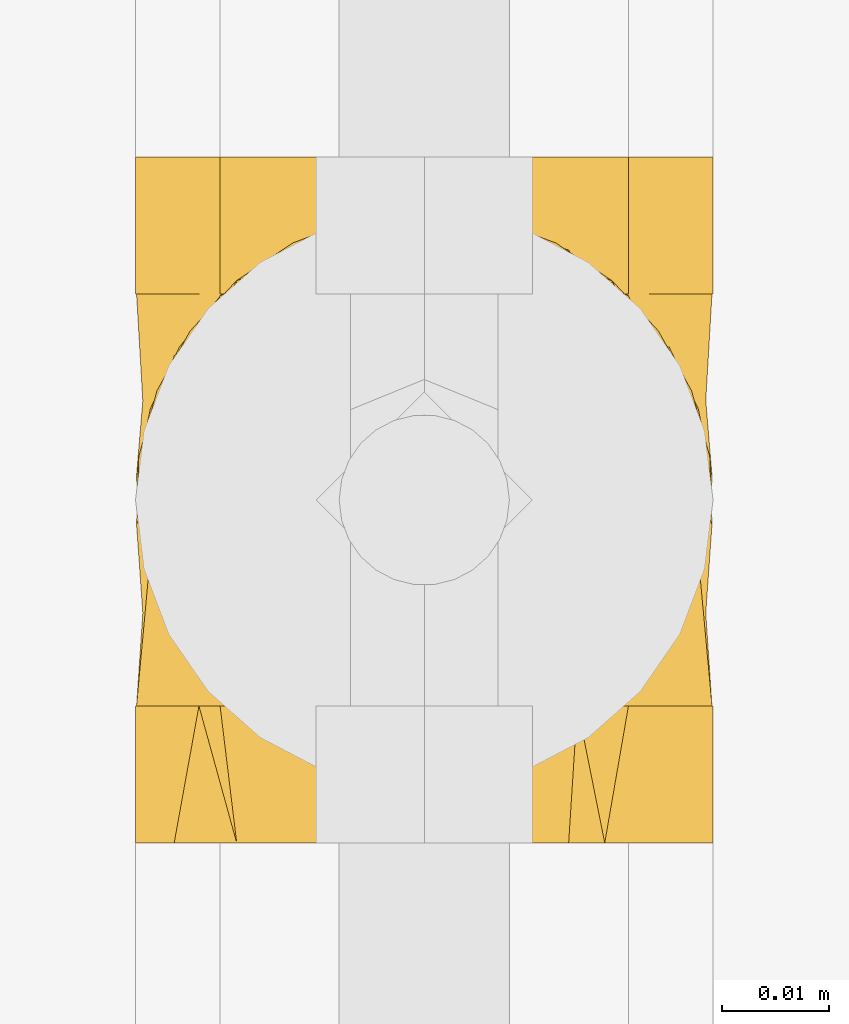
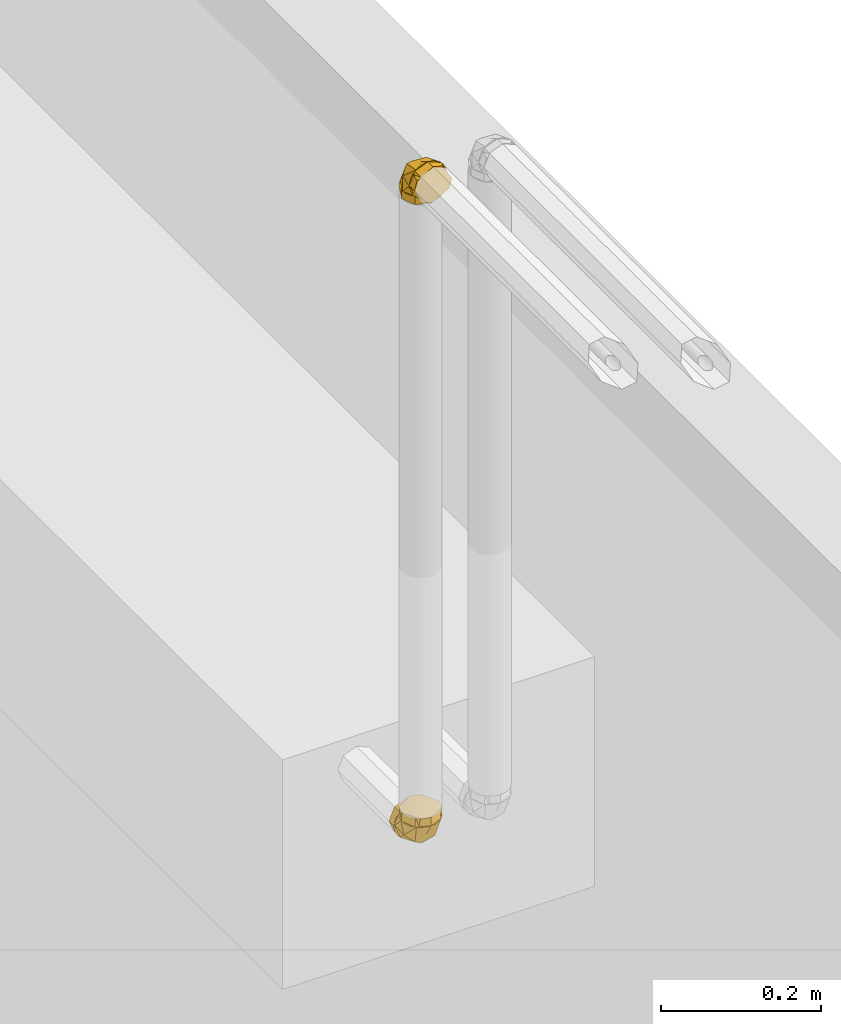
# One storey, part 369 of 652: 2 coverings.
"""IFC2X3 building model written with IfcOpenShell, lengths in millimetres."""

from ifc_helpers import new_model, entity, si_unit, converted_unit, direction, frame, origin, place, context, subcontext, project, spatial, face_set, surface_model, material, type_object, element, save


model = new_model("IFC2X3")

# Units and contexts
model_context = context("Model", 3, precision=0.01, world=frame((0.0, 0.0, 308426.39999999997)), true_north=direction((6.123233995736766e-17, 1.0)))
plan_context = context("Plan", 3, precision=0.01, world=frame((0.0, 0.0, 308426.39999999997)), true_north=direction((6.123233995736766e-17, 1.0)))
body_context = subcontext(model_context, "Body", "Model", "MODEL_VIEW")
ifc_project = project(units=[si_unit("LENGTHUNIT", "METRE", prefix="MILLI"), si_unit("AREAUNIT", "SQUARE_METRE"), si_unit("VOLUMEUNIT", "CUBIC_METRE"), converted_unit("PLANEANGLEUNIT", "DEGREE", entity("IfcPlaneAngleMeasure", 0.017453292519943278), si_unit("PLANEANGLEUNIT", "RADIAN"), dimensions=[0, 0, 0, 0, 0, 0, 0])], contexts=[model_context, plan_context])

# Site, building, storey
site_placement = place(None, origin())
site = spatial("IfcSite", under=ifc_project, at=site_placement, Name="Default", CompositionType="ELEMENT")
building_placement = place(site_placement, origin())
building = spatial("IfcBuilding", under=site, at=building_placement, CompositionType="ELEMENT")
storey_placement = place(building_placement, frame((0.0, 0.0, 1730.6999999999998)))
storey = spatial("IfcBuildingStorey", under=building, at=storey_placement, Name="EG_Produktion_FFB", CompositionType="ELEMENT", Elevation=1730.6999999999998)

# Coverings
ifc_material = material(Name="Dämmung - Armaflex-Schlauch")
covering_type = type_object("IfcCoveringType", Name="Rohrdämmung außen:Armaflex-Schlauch", PredefinedType="INSULATION")
covering_1_placement = place(storey_placement, frame((66096.95799511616, 42487.64333489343, 2731.9837499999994)))
element("IfcCovering", 1, at=covering_1_placement, inside=storey, type_object=covering_type, material=ifc_material, Name="Rohrdämmung außen:Armaflex-Schlauch", ObjectType="Rohrdämmung außen:Armaflex-Schlauch", PredefinedType="INSULATION", context=body_context, shape_type="SurfaceModel", body=[
    surface_model("IfcFaceBasedSurfaceModel", [(47.409122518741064, 47.75027223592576, -12.766249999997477), (5.678961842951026, 47.75027223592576, -17.724287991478), (2.973980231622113, 47.75027223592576, -23.47627931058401), (1.6920879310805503, 47.75027223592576, -29.701958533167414), (1.904659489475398, 47.75027223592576, -36.05468574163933), (3.599859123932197, 47.75027223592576, -42.180747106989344), (6.683299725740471, 47.75027223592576, -47.739049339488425), (10.983298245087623, 47.750272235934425, -52.42011143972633), (16.26043484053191, 47.750272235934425, -55.96329630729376), (22.220883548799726, 47.750272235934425, -58.17132276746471), (28.532772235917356, 47.750272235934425, -58.9212499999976), (34.844660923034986, 47.750272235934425, -58.17132276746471), (40.8051096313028, 47.750272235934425, -55.96329630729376), (46.08224622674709, 47.750272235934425, -52.42011143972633), (50.38224474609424, 47.75027223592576, -47.739049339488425), (53.465685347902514, 47.75027223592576, -42.180747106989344), (55.16088498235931, 47.75027223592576, -36.05468574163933), (55.37345654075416, 47.75027223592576, -29.701958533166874), (54.0915642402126, 47.75027223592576, -23.47627931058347), (51.38658262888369, 47.75027223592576, -17.724287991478), (9.65642195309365, 47.75027223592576, -12.766249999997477), (51.38658262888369, 42.79223424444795, -12.766249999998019), (54.0915642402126, 37.040242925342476, -12.766249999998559), (55.37345654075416, 30.81456370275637, -12.766249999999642), (55.16088498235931, 24.461836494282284, -12.766250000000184), (53.465685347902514, 18.33577512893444, -12.766250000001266), (50.38224474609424, 12.77747289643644, -12.766250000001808), (46.08224622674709, 8.09641079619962, -12.76625000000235), (40.8051096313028, 4.553225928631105, -12.766250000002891), (34.844660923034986, 2.345199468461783, -12.766250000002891), (28.532772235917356, 1.5952722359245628, -12.766250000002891), (22.220883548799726, 2.345199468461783, -12.766250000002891), (16.26043484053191, 4.553225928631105, -12.766250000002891), (10.983298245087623, 8.09641079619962, -12.76625000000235), (6.683299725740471, 12.77747289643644, -12.766250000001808), (3.599859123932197, 18.33577512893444, -12.766250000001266), (1.904659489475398, 24.461836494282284, -12.766250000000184), (1.6920879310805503, 30.81456370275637, -12.766249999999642), (2.973980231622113, 37.040242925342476, -12.766249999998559), (5.678961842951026, 42.79223424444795, -12.766249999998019), (54.79022265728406, 37.80747077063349, -21.44669860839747), (28.53136035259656, 24.673388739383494, -52.73752120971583), (50.73000537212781, 47.751049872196, -41.06090835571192), (53.46472216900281, 26.952319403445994, -33.56543563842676), (42.78165332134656, 17.334301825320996, -41.84167465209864), (28.53136035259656, 12.139270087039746, -31.029834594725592), (50.73000537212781, 19.455102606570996, -12.766123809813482), (14.285718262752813, 17.334301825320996, -41.84167465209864), (3.597998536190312, 26.952319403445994, -33.56543563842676), (2.277148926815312, 37.80747077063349, -21.44669860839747), (6.337366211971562, 19.455102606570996, -12.766123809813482), (6.337366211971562, 47.751049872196, -41.06090835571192), (28.532772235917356, 60.516522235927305, -58.92125000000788), (23.77085000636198, 60.516522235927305, -56.94879722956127), (19.008927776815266, 60.516522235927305, -54.97634445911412), (14.247005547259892, 60.516522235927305, -53.0038916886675), (9.485083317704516, 60.516522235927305, -51.03143891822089), (7.512630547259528, 60.516522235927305, -46.26951668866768), (5.54017777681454, 60.516522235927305, -41.50759445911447), (3.567725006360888, 60.516522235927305, -36.74567222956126), (1.5952722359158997, 60.516522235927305, -31.98375000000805), (3.567725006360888, 60.516522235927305, -27.22182777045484), (5.54017777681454, 60.516522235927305, -22.45990554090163), (7.512630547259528, 60.516522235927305, -17.697983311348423), (9.485083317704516, 60.516522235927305, -12.936061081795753), (14.247005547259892, 60.516522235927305, -10.9636083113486), (19.008927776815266, 60.516522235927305, -8.991155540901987), (23.77085000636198, 60.516522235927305, -7.018702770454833), (28.532772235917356, 60.516522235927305, -5.04625000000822), (33.29469446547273, 60.516522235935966, -7.018702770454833), (38.05661669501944, 60.516522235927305, -8.991155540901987), (42.81853892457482, 60.516522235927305, -10.963608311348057), (47.5804611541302, 60.516522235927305, -12.936061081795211), (49.552913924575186, 60.516522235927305, -17.697983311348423), (51.525366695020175, 60.516522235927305, -22.45990554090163), (53.49781946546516, 60.516522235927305, -27.2218277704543), (55.47027223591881, 60.516522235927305, -31.98375000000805), (53.497819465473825, 60.516522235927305, -36.74567222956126), (51.525366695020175, 60.516522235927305, -41.50759445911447), (49.552913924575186, 60.516522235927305, -46.26951668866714), (47.5804611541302, 60.516522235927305, -51.03143891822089), (42.81853892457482, 60.516522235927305, -53.00389168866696), (38.05661669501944, 60.516522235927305, -54.97634445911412), (33.29469446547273, 60.516522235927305, -56.94879722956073), (28.532772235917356, 47.75027223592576, -58.92125000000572), (33.29469446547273, 47.75027223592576, -56.94879722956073), (38.05661669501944, 47.75027223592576, -54.97634445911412), (42.81853892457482, 47.75027223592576, -53.00389168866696), (47.5804611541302, 47.75027223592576, -51.031438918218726), (49.96980627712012, 47.75027223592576, -45.26304951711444), (52.35915140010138, 47.75027223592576, -39.494660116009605), (55.47027223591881, 47.75027223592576, -31.983750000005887), (53.497819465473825, 47.75027223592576, -27.221827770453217), (51.525366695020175, 47.75027223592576, -22.459905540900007), (49.552913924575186, 47.75027223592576, -17.69798331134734), (47.5804611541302, 47.75027223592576, -12.936061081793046), (41.81207175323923, 47.75027223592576, -10.546715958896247), (36.04368235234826, 47.75027223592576, -8.157370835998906), (28.532772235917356, 47.75027223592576, -5.0462500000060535), (23.770850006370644, 47.75027223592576, -7.018702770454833), (19.008927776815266, 47.75027223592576, -8.991155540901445), (14.247005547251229, 47.75027223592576, -10.963608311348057), (9.485083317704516, 47.75027223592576, -12.936061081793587), (7.095738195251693, 47.75027223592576, -18.704450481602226), (4.706393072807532, 47.75027223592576, -24.472839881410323), (1.5952722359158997, 47.75027223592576, -31.983750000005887), (3.567725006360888, 47.75027223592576, -36.7456722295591), (5.54017777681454, 47.75027223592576, -41.507594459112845), (7.512630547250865, 47.75027223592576, -46.2695166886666), (9.485083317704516, 47.75027223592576, -51.031438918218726), (15.253472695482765, 47.75027223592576, -53.42078403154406), (21.021862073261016, 47.75027223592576, -55.8101291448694), (28.532772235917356, 1.5952722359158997, 0.0), (34.36491206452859, 4.962459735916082, 0.0), (40.197051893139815, 8.329647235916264, 0.0), (46.02919172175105, 11.696834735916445, 0.0), (51.86133155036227, 15.064022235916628, 0.0), (53.66580189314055, 21.79839723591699, 0.0), (55.47027223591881, 28.532772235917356, 0.0), (52.10308473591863, 34.36491206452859, 0.0), (48.73589723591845, 40.197051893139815, 0.0), (45.368709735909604, 46.02919172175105, 0.0), (42.00152223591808, 51.86133155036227, 0.0), (35.26714723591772, 53.66580189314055, 0.0), (28.532772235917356, 55.47027223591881, 0.0), (22.700632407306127, 52.10308473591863, 0.0), (16.868492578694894, 48.73589723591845, 0.0), (11.036352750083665, 45.368709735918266, 0.0), (5.204212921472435, 42.00152223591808, 0.0), (3.3997425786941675, 35.26714723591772, 0.0), (1.5952722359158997, 28.532772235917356, 0.0), (4.962459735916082, 22.700632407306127, 0.0), (8.329647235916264, 16.868492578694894, 0.0), (11.696834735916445, 11.036352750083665, 0.0), (15.064022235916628, 5.204212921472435, 0.0), (21.79839723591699, 3.3997425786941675, 0.0), (28.532772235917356, 1.5952722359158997, -12.766249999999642), (23.77085000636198, 3.567725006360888, -12.766249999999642), (19.008927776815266, 5.54017777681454, -12.766249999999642), (14.247005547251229, 7.512630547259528, -12.766250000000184), (9.485083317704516, 9.485083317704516, -12.766249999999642), (7.512630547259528, 14.247005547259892, -12.766249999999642), (5.54017777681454, 19.008927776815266, -12.766249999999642), (3.567725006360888, 23.77085000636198, -12.766249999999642), (1.5952722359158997, 28.532772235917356, -12.766249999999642), (3.567725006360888, 33.29469446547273, -12.766249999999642), (5.54017777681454, 38.05661669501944, -12.766249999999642), (7.512630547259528, 42.81853892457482, -12.766249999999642), (9.485083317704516, 47.5804611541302, -12.766249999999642), (14.247005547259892, 49.552913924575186, -12.766249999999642), (19.008927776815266, 51.525366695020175, -12.766249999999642), (23.77085000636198, 53.49781946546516, -12.766249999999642), (28.532772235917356, 55.47027223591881, -12.766249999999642), (33.29469446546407, 53.497819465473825, -12.766249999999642), (38.05661669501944, 51.525366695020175, -12.766249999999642), (42.81853892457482, 49.552913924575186, -12.7662499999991), (47.5804611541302, 47.5804611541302, -12.766249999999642), (49.552913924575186, 42.81853892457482, -12.766249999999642), (51.525366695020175, 38.05661669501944, -12.766249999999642), (53.497819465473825, 33.29469446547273, -12.766249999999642), (55.47027223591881, 28.532772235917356, -12.766249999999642), (53.497819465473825, 23.77085000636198, -12.766249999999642), (51.525366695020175, 19.008927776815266, -12.766249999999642), (49.552913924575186, 14.247005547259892, -12.766250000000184), (47.5804611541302, 9.485083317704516, -12.766249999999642), (42.81853892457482, 7.512630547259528, -12.766249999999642), (38.05661669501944, 5.54017777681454, -12.766249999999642), (33.29469446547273, 3.567725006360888, -12.766250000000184)], [face_set([[[0, 1, 2, 3, 4, 5, 6, 7, 8, 9, 10, 11, 12, 13, 14, 15, 16, 17, 18, 19]], [[20, 21, 22, 23, 24, 25, 26, 27, 28, 29, 30, 31, 32, 33, 34, 35, 36, 37, 38, 39]], [[0, 40, 17]], [[10, 13, 41]], [[42, 17, 43]], [[40, 43, 17]], [[23, 40, 0]], [[13, 43, 44]], [[45, 41, 44]], [[13, 44, 41]], [[27, 30, 45]], [[45, 44, 27]], [[43, 27, 44]], [[43, 23, 46]], [[43, 13, 42]], [[23, 43, 40]], [[46, 27, 43]], [[7, 10, 41]], [[33, 47, 45]], [[45, 30, 33]], [[48, 47, 33]], [[49, 48, 37]], [[50, 37, 48, 33]], [[45, 47, 41]], [[20, 49, 37]], [[47, 48, 7]], [[3, 49, 20]], [[41, 47, 7]], [[48, 3, 51]], [[3, 48, 49]], [[51, 7, 48]]]), face_set([[[52, 53, 54, 55, 56, 57, 58, 59, 60, 61, 62, 63, 64, 65, 66, 67, 68, 69, 70, 71, 72, 73, 74, 75, 76, 77, 78, 79, 80, 81, 82, 83]], [[84, 85, 86, 87, 88, 89, 90, 91, 92, 93, 94, 95, 96, 97, 98, 99, 100, 101, 102, 103, 104, 105, 106, 107, 108, 109, 110, 111]], [[111, 110, 109, 56, 55, 54, 53, 52, 84]], [[56, 109, 108, 107, 106, 105, 60, 59, 58, 57]], [[104, 103, 102, 64, 63, 62, 61, 60, 105]], [[64, 102, 101, 100, 99, 98, 68, 67, 66, 65]], [[97, 96, 95, 72, 71, 70, 69, 68, 98]], [[72, 95, 94, 93, 92, 91, 76, 75, 74, 73]], [[90, 89, 88, 80, 79, 78, 77, 76, 91]], [[80, 88, 87, 86, 85, 84, 52, 83, 82, 81]]]), face_set([[[112, 113, 114, 115, 116, 117, 118, 119, 120, 121, 122, 123, 124, 125, 126, 127, 128, 129, 130, 131, 132, 133, 134, 135]], [[136, 137, 138, 139, 140, 141, 142, 143, 144, 145, 146, 147, 148, 149, 150, 151, 152, 153, 154, 155, 156, 157, 158, 159, 160, 161, 162, 163, 164, 165, 166, 167]], [[155, 121, 156]], [[118, 159, 119]], [[159, 158, 119]], [[123, 154, 153]], [[153, 152, 124]], [[121, 155, 122]], [[120, 158, 157]], [[118, 160, 159]], [[158, 120, 119]], [[124, 123, 153]], [[157, 156, 121]], [[155, 154, 122]], [[123, 122, 154]], [[120, 157, 121]], [[163, 115, 164]], [[112, 167, 113]], [[167, 166, 113]], [[117, 162, 161]], [[161, 160, 118]], [[115, 163, 116]], [[114, 166, 165]], [[112, 136, 167]], [[166, 114, 113]], [[118, 117, 161]], [[165, 164, 115]], [[163, 162, 116]], [[117, 116, 162]], [[114, 165, 115]], [[139, 133, 140]], [[130, 143, 131]], [[143, 142, 131]], [[135, 138, 137]], [[137, 136, 112]], [[133, 139, 134]], [[132, 142, 141]], [[130, 144, 143]], [[142, 132, 131]], [[112, 135, 137]], [[141, 140, 133]], [[139, 138, 134]], [[135, 134, 138]], [[132, 141, 133]], [[147, 127, 148]], [[124, 151, 125]], [[151, 150, 125]], [[129, 146, 145]], [[145, 144, 130]], [[127, 147, 128]], [[126, 150, 149]], [[124, 152, 151]], [[150, 126, 125]], [[130, 129, 145]], [[149, 148, 127]], [[147, 146, 128]], [[129, 128, 146]], [[126, 149, 127]]])]),
])
covering_2_placement = place(storey_placement, frame((66096.95799511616, 42484.19235712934, 3728.5327722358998)))
element("IfcCovering", 2, at=covering_2_placement, inside=storey, type_object=covering_type, material=ifc_material, Name="Rohrdämmung außen:Armaflex-Schlauch", ObjectType="Rohrdämmung außen:Armaflex-Schlauch", PredefinedType="INSULATION", context=body_context, shape_type="SurfaceModel", body=[
    surface_model("IfcFaceBasedSurfaceModel", [(9.65642195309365, 12.766249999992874, -47.750272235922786), (5.678961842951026, 17.724287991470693, -47.75027223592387), (2.973980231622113, 23.47627931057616, -47.75027223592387), (1.6920879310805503, 29.70195853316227, -47.75027223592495), (1.904659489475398, 36.054685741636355, -47.75027223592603), (3.599859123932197, 42.1807471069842, -47.75027223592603), (6.683299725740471, 47.7390493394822, -47.75027223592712), (10.983298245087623, 52.420111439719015, -47.75027223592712), (16.26043484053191, 55.963296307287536, -47.7502722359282), (22.220883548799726, 58.17132276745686, -47.7502722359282), (28.532772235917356, 58.921249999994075, -47.7502722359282), (34.844660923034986, 58.17132276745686, -47.7502722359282), (40.8051096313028, 55.963296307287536, -47.7502722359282), (46.08224622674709, 52.420111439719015, -47.75027223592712), (50.38224474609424, 47.7390493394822, -47.75027223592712), (53.465685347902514, 42.1807471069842, -47.75027223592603), (55.16088498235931, 36.054685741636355, -47.75027223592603), (55.37345654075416, 29.70195853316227, -47.75027223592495), (54.0915642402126, 23.47627931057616, -47.75027223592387), (51.38658262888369, 17.724287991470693, -47.75027223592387), (47.409122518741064, 12.766249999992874, -47.750272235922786), (51.38658262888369, 12.766249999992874, -42.79223424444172), (54.0915642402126, 12.766249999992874, -37.04024292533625), (55.37345654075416, 12.766249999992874, -30.814563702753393), (55.16088498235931, 12.766249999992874, -24.46183649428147), (53.465685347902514, 12.766249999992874, -18.33577512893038), (50.38224474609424, 12.766249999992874, -12.777472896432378), (46.08224622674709, 12.766250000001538, -8.096410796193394), (40.8051096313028, 12.766250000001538, -4.553225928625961), (34.844660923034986, 12.766250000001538, -2.3451994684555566), (28.532772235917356, 12.766250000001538, -1.5952722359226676), (22.220883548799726, 12.766250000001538, -2.3451994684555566), (16.26043484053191, 12.766250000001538, -4.553225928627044), (10.983298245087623, 12.766250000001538, -8.096410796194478), (6.683299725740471, 12.766249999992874, -12.777472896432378), (3.599859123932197, 12.766249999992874, -18.33577512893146), (1.904659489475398, 12.766249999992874, -24.46183649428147), (1.6920879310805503, 12.766249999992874, -30.814563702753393), (2.973980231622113, 12.766249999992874, -37.04024292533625), (5.678961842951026, 12.766249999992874, -42.7922342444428), (2.277148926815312, 21.445704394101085, -37.807294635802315), (28.53136035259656, 52.736817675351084, -24.672631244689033), (6.337366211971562, 41.063111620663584, -47.75029237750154), (3.597998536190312, 33.56589482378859, -26.950980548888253), (14.285718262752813, 41.839808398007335, -17.332381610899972), (28.53136035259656, 31.031165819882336, -12.139675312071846), (6.337366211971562, 12.767164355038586, -19.455507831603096), (42.78165332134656, 41.839808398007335, -17.332381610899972), (53.46472216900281, 33.56589482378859, -26.950980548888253), (54.79022265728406, 21.445704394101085, -37.807294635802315), (50.73000537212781, 12.767164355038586, -19.455507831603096), (50.73000537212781, 41.063111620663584, -47.75029237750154), (14.247005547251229, 53.00389168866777, -60.51652223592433), (19.008927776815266, 54.97634445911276, -60.51652223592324), (23.770850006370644, 56.948797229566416, -60.51652223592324), (28.532772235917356, 58.921250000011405, -60.51652223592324), (33.29469446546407, 56.94879722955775, -60.51652223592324), (38.05661669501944, 54.97634445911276, -60.51652223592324), (42.81853892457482, 53.00389168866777, -60.51652223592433), (47.5804611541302, 51.03143891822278, -60.51652223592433), (49.552913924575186, 46.26951668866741, -60.51652223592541), (51.525366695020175, 41.507594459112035, -60.51652223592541), (53.49781946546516, 36.74567222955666, -60.51652223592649), (55.47027223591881, 31.983750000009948, -60.516522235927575), (53.497819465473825, 27.221827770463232, -60.516522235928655), (51.525366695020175, 22.459905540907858, -60.51652223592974), (49.552913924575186, 17.697983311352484, -60.51652223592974), (47.5804611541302, 12.936061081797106, -60.51652223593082), (42.81853892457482, 10.963608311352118, -60.51652223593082), (38.05661669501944, 8.99115554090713, -60.5165222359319), (33.29469446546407, 7.018702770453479, -60.5165222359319), (28.532772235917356, 5.046250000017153, -60.5165222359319), (23.77085000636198, 7.018702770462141, -60.5165222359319), (19.008927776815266, 8.99115554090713, -60.5165222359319), (14.247005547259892, 10.963608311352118, -60.51652223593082), (9.485083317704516, 12.936061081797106, -60.51652223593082), (7.512630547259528, 17.697983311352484, -60.51652223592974), (5.54017777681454, 22.459905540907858, -60.51652223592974), (3.567725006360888, 27.22182777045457, -60.516522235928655), (1.5952722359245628, 31.983750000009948, -60.516522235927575), (3.567725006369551, 36.74567222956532, -60.516522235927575), (5.54017777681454, 41.507594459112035, -60.51652223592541), (7.512630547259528, 46.26951668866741, -60.51652223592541), (9.485083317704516, 51.03143891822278, -60.51652223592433), (28.532772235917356, 58.92125000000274, -47.75027223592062), (23.770850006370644, 56.948797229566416, -47.75027223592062), (19.008927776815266, 54.97634445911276, -47.750272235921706), (14.247005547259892, 53.00389168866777, -47.750272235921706), (9.485083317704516, 51.03143891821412, -47.750272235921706), (7.095738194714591, 45.26304951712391, -47.750272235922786), (4.706393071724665, 39.49466011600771, -47.75027223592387), (1.5952722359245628, 31.983750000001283, -47.75027223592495), (3.567725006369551, 27.22182777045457, -47.75027223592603), (5.54017777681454, 22.459905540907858, -47.75027223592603), (7.512630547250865, 17.697983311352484, -47.7502722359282), (9.485083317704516, 12.936061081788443, -47.7502722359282), (15.253472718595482, 10.546715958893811, -47.7502722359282), (21.021862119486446, 8.157370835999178, -47.7502722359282), (28.532772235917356, 5.046250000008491, -47.75027223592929), (33.29469446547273, 7.018702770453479, -47.75027223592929), (38.05661669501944, 8.99115554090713, -47.7502722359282), (42.81853892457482, 10.963608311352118, -47.7502722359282), (47.5804611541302, 12.936061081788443, -47.7502722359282), (49.96980627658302, 18.704450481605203, -47.75027223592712), (52.359151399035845, 24.472839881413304, -47.75027223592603), (55.47027223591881, 31.983750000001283, -47.75027223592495), (53.49781946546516, 36.74567222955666, -47.75027223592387), (51.525366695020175, 41.507594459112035, -47.75027223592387), (49.55291392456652, 46.26951668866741, -47.750272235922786), (47.5804611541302, 51.03143891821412, -47.750272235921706), (41.81207177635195, 53.420784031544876, -47.750272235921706), (36.0436823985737, 55.81012914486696, -47.750272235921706), (28.532772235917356, 0.0, -1.5952722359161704), (22.700632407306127, 0.0, -4.962459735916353), (16.868492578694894, 0.0, -8.329647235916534), (11.036352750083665, 0.0, -11.696834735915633), (5.204212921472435, 0.0, -15.064022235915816), (3.3997425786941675, 0.0, -21.79839723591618), (1.5952722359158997, 0.0, -28.532772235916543), (4.962459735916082, 0.0, -34.36491206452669), (8.329647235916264, 0.0, -40.197051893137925), (11.696834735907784, 0.0, -46.02919172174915), (15.064022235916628, 0.0, -51.861331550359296), (21.79839723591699, 0.0, -53.66580189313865), (28.532772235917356, 0.0, -55.470272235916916), (34.36491206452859, 0.0, -52.10308473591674), (40.197051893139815, 0.0, -48.73589723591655), (46.02919172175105, 0.0, -45.36870973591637), (51.86133155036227, 0.0, -42.00152223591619), (53.66580189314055, 0.0, -35.26714723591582), (55.47027223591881, 0.0, -28.532772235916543), (52.10308473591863, 0.0, -22.700632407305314), (48.73589723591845, 0.0, -16.868492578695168), (45.368709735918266, 0.0, -11.036352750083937), (42.00152223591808, 0.0, -5.204212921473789), (35.26714723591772, 0.0, -3.3997425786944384), (28.532772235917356, 12.766250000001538, -1.5952722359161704), (33.29469446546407, 12.766250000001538, -3.567725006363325), (38.05661669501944, 12.766250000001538, -5.540177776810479), (42.81853892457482, 12.766250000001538, -7.512630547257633), (47.5804611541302, 12.766250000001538, -9.485083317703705), (49.552913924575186, 12.766250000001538, -14.247005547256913), (51.525366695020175, 12.766250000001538, -19.008927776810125), (53.49781946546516, 12.766250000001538, -23.770850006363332), (55.47027223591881, 12.766250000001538, -28.532772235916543), (53.497819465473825, 12.766250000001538, -33.29469446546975), (51.525366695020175, 12.766250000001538, -38.05661669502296), (49.552913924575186, 12.766250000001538, -42.818538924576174), (47.5804611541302, 12.766250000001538, -47.58046115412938), (42.81853892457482, 12.766250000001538, -49.552913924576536), (38.05661669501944, 12.766250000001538, -51.52536669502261), (33.29469446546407, 12.766250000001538, -53.49781946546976), (28.532772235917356, 12.766250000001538, -55.470272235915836), (23.77085000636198, 12.766250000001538, -53.49781946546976), (19.008927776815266, 12.766250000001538, -51.52536669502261), (14.247005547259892, 12.766250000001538, -49.552913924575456), (9.485083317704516, 12.766250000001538, -47.58046115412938), (7.512630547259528, 12.766250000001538, -42.818538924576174), (5.54017777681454, 12.766250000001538, -38.05661669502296), (3.567725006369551, 12.766250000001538, -33.29469446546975), (1.5952722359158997, 12.766250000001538, -28.532772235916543), (3.567725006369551, 12.766250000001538, -23.770850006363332), (5.54017777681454, 12.766250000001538, -19.008927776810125), (7.512630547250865, 12.766250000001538, -14.247005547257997), (9.485083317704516, 12.766250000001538, -9.485083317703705), (14.247005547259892, 12.766250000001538, -7.512630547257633), (19.008927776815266, 12.766250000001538, -5.540177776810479), (23.77085000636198, 12.766250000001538, -3.567725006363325)], [face_set([[[0, 1, 2, 3, 4, 5, 6, 7, 8, 9, 10, 11, 12, 13, 14, 15, 16, 17, 18, 19]], [[20, 21, 22, 23, 24, 25, 26, 27, 28, 29, 30, 31, 32, 33, 34, 35, 36, 37, 38, 39]], [[0, 40, 3]], [[10, 7, 41]], [[42, 3, 43]], [[40, 43, 3]], [[37, 40, 0]], [[7, 43, 44]], [[45, 41, 44]], [[7, 44, 41]], [[33, 30, 45]], [[45, 44, 33]], [[43, 33, 44]], [[43, 37, 46, 33]], [[43, 7, 42]], [[37, 43, 40]], [[13, 10, 41]], [[27, 47, 45]], [[45, 30, 27]], [[48, 47, 27]], [[49, 48, 23]], [[48, 50, 23]], [[45, 47, 41]], [[20, 49, 23]], [[47, 48, 13]], [[17, 49, 20]], [[41, 47, 13]], [[48, 17, 51]], [[48, 27, 50]], [[17, 48, 49]], [[51, 13, 48]]]), face_set([[[52, 53, 54, 55, 56, 57, 58, 59, 60, 61, 62, 63, 64, 65, 66, 67, 68, 69, 70, 71, 72, 73, 74, 75, 76, 77, 78, 79, 80, 81, 82, 83]], [[84, 85, 86, 87, 88, 89, 90, 91, 92, 93, 94, 95, 96, 97, 98, 99, 100, 101, 102, 103, 104, 105, 106, 107, 108, 109, 110, 111]], [[111, 110, 109, 59, 58, 57, 56, 55, 84]], [[59, 109, 108, 107, 106, 105, 63, 62, 61, 60]], [[104, 103, 102, 67, 66, 65, 64, 63, 105]], [[67, 102, 101, 100, 99, 98, 71, 70, 69, 68]], [[97, 96, 95, 75, 74, 73, 72, 71, 98]], [[75, 95, 94, 93, 92, 91, 79, 78, 77, 76]], [[90, 89, 88, 83, 82, 81, 80, 79, 91]], [[83, 88, 87, 86, 85, 84, 55, 54, 53, 52]]]), face_set([[[112, 113, 114, 115, 116, 117, 118, 119, 120, 121, 122, 123, 124, 125, 126, 127, 128, 129, 130, 131, 132, 133, 134, 135]], [[136, 137, 138, 139, 140, 141, 142, 143, 144, 145, 146, 147, 148, 149, 150, 151, 152, 153, 154, 155, 156, 157, 158, 159, 160, 161, 162, 163, 164, 165, 166, 167]], [[155, 121, 156]], [[118, 159, 119]], [[159, 158, 119]], [[123, 154, 153]], [[153, 152, 124]], [[121, 155, 122]], [[120, 158, 157]], [[118, 160, 159]], [[158, 120, 119]], [[124, 123, 153]], [[157, 156, 121]], [[155, 154, 122]], [[123, 122, 154]], [[120, 157, 121]], [[163, 115, 164]], [[112, 167, 113]], [[167, 166, 113]], [[117, 162, 161]], [[161, 160, 118]], [[115, 163, 116]], [[114, 166, 165]], [[112, 136, 167]], [[166, 114, 113]], [[118, 117, 161]], [[165, 164, 115]], [[163, 162, 116]], [[117, 116, 162]], [[114, 165, 115]], [[139, 133, 140]], [[130, 143, 131]], [[143, 142, 131]], [[135, 138, 137]], [[137, 136, 112]], [[133, 139, 134]], [[132, 142, 141]], [[130, 144, 143]], [[142, 132, 131]], [[112, 135, 137]], [[141, 140, 133]], [[139, 138, 134]], [[135, 134, 138]], [[132, 141, 133]], [[147, 127, 148]], [[124, 151, 125]], [[151, 150, 125]], [[129, 146, 145]], [[145, 144, 130]], [[127, 147, 128]], [[126, 150, 149]], [[124, 152, 151]], [[150, 126, 125]], [[130, 129, 145]], [[149, 148, 127]], [[147, 146, 128]], [[129, 128, 146]], [[126, 149, 127]]])]),
])

save(model, "model.ifc")
